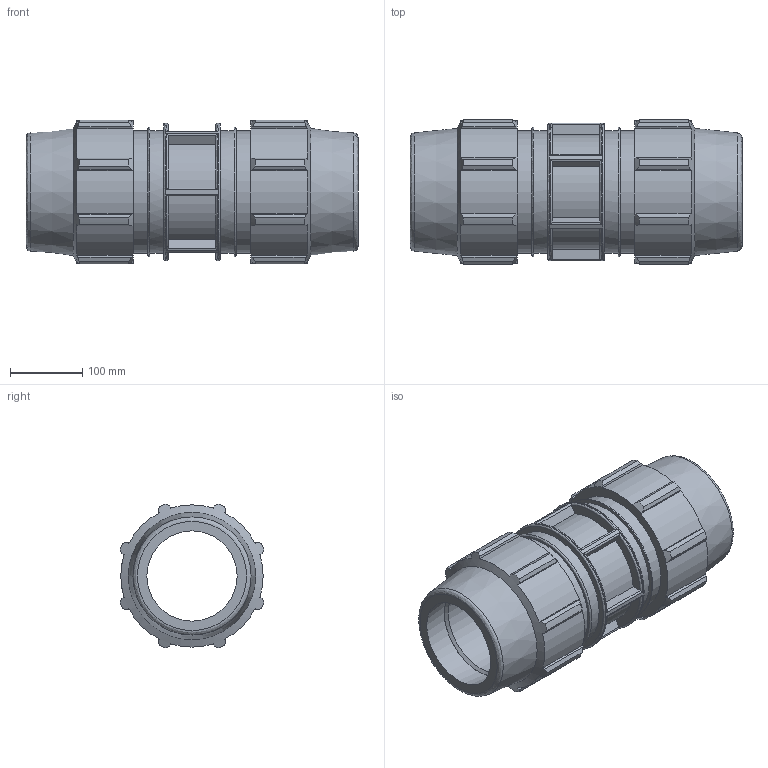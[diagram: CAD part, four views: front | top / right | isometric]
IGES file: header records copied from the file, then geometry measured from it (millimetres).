
Global section: file name: 076100125_186100125_0761061250A.ipt; native system: Autodesk Inventor 2015; preprocessor: unknown; author: KIM; date: 20180617.114137; units: millimetre
Bounding box: 460 x 199.48 x 199.48 mm (x, y, z)
Volume: 6064091.6 mm3; surface area: 542374.1 mm2
Topology: 1 solids, 1 shells, 198 faces, 551 edges, 370 vertices
Faces by surface type: plane 100, cylinder 55, revolution 23, cone 20
Full cylindrical faces by diameter (mm): 169.6 x4, 190.8 x1
